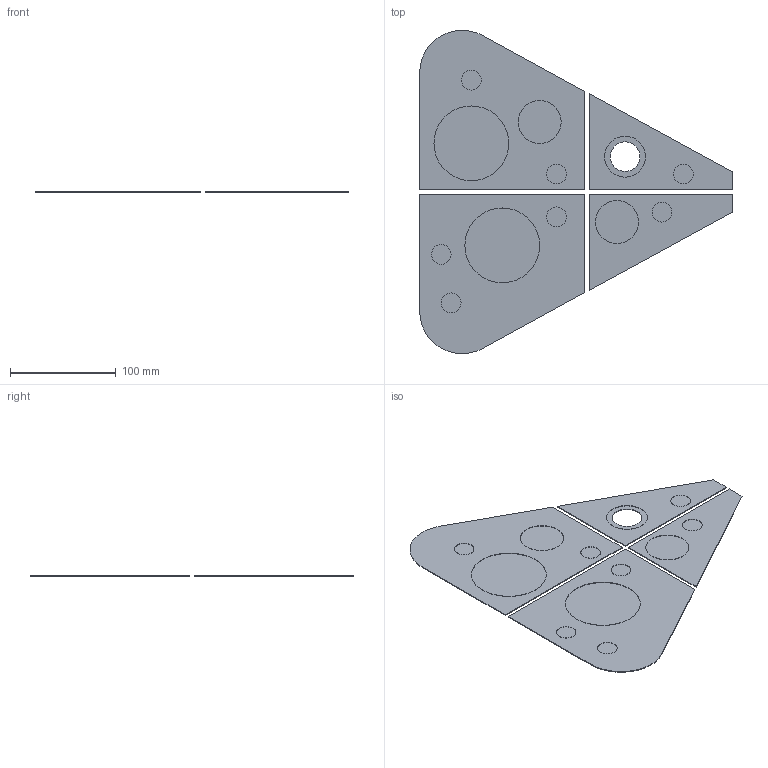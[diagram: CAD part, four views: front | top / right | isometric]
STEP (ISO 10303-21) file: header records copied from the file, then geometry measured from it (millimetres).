
FILE_DESCRIPTION(('STEP AP203'), '1');
FILE_NAME('ìàñêà äåêè âñÿ ïåðåä', '', ('UNSPECIFIED'), ('UNSPECIFIED'), 'ASCON STEP Converter 1.3', 'ASCON Math Kernel', '');
FILE_SCHEMA(('CONFIG_CONTROL_DESIGN'));
Length unit declared in the file: millimetre
Bounding box: 295 x 305.22 x 0.8 mm (x, y, z)
Volume: 38131.1 mm3; surface area: 110248.3 mm2
Topology: 4 solids, 4 shells, 51 faces, 93 edges, 62 vertices
Faces by surface type: plane 36, cylinder 15
Full cylindrical faces by diameter (mm): 18.6 x7, 28 x1, 38.6 x1, 40.6 x2, 70.6 x2
Entity records: 1666 total; most frequent: DIRECTION 214, CARTESIAN_POINT 194, ORIENTED_EDGE 160, AXIS2_PLACEMENT_3D 82, EDGE_CURVE 80, EDGE_LOOP 78, VERTEX_POINT 62, COLOUR_RGB 55
